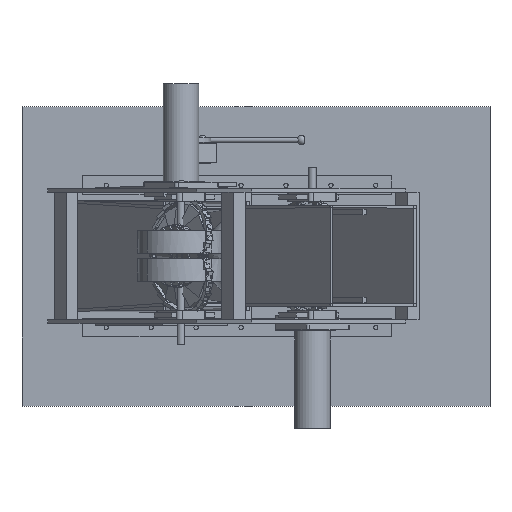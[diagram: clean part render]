
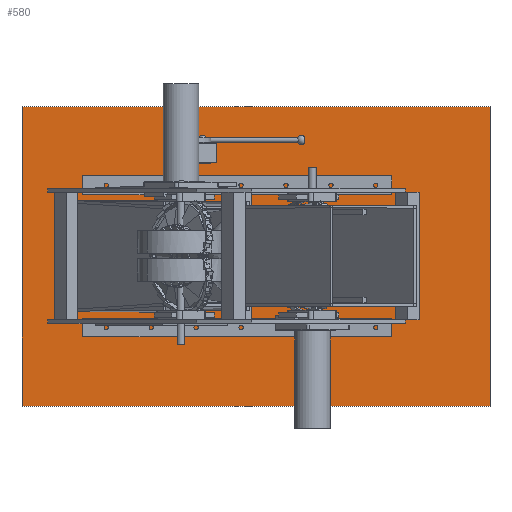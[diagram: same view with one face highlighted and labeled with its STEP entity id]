
A CAD part, top view. The second image highlights one B-rep face of the part: STEP entity #580.
In plain terms, the highlighted planar face has unit normal (0, 0, 1).
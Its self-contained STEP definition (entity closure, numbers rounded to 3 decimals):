
#266 = VERTEX_POINT('',#267);
#267 = CARTESIAN_POINT('',(-30.,-160.,0.));
#274 = PLANE('',#275);
#275 = AXIS2_PLACEMENT_3D('',#276,#277,#278);
#276 = CARTESIAN_POINT('',(-30.,-160.,-4.));
#277 = DIRECTION('',(1.,0.,0.));
#278 = DIRECTION('',(0.,0.,1.));
#286 = PLANE('',#287);
#287 = AXIS2_PLACEMENT_3D('',#288,#289,#290);
#288 = CARTESIAN_POINT('',(-30.,-160.,-4.));
#289 = DIRECTION('',(0.,1.,0.));
#290 = DIRECTION('',(0.,0.,1.));
#327 = VERTEX_POINT('',#328);
#328 = CARTESIAN_POINT('',(-30.,160.,0.));
#342 = PLANE('',#343);
#343 = AXIS2_PLACEMENT_3D('',#344,#345,#346);
#344 = CARTESIAN_POINT('',(-30.,160.,-4.));
#345 = DIRECTION('',(0.,1.,0.));
#346 = DIRECTION('',(0.,0.,1.));
#354 = EDGE_CURVE('',#266,#327,#355,.T.);
#355 = SURFACE_CURVE('',#356,(#360,#367),.PCURVE_S1.);
#356 = LINE('',#357,#358);
#357 = CARTESIAN_POINT('',(-30.,-160.,0.));
#358 = VECTOR('',#359,1.);
#359 = DIRECTION('',(0.,1.,0.));
#360 = PCURVE('',#274,#361);
#361 = DEFINITIONAL_REPRESENTATION('',(#362),#366);
#362 = LINE('',#363,#364);
#363 = CARTESIAN_POINT('',(4.,0.));
#364 = VECTOR('',#365,1.);
#365 = DIRECTION('',(0.,-1.));
#366 = ( GEOMETRIC_REPRESENTATION_CONTEXT(2) 
PARAMETRIC_REPRESENTATION_CONTEXT() REPRESENTATION_CONTEXT('2D SPACE',''
  ) );
#367 = PCURVE('',#368,#373);
#368 = PLANE('',#369);
#369 = AXIS2_PLACEMENT_3D('',#370,#371,#372);
#370 = CARTESIAN_POINT('',(-30.,-160.,0.));
#371 = DIRECTION('',(0.,0.,1.));
#372 = DIRECTION('',(1.,0.,0.));
#373 = DEFINITIONAL_REPRESENTATION('',(#374),#378);
#374 = LINE('',#375,#376);
#375 = CARTESIAN_POINT('',(0.,0.));
#376 = VECTOR('',#377,1.);
#377 = DIRECTION('',(0.,1.));
#378 = ( GEOMETRIC_REPRESENTATION_CONTEXT(2) 
PARAMETRIC_REPRESENTATION_CONTEXT() REPRESENTATION_CONTEXT('2D SPACE',''
  ) );
#386 = VERTEX_POINT('',#387);
#387 = CARTESIAN_POINT('',(470.,-160.,0.));
#394 = PLANE('',#395);
#395 = AXIS2_PLACEMENT_3D('',#396,#397,#398);
#396 = CARTESIAN_POINT('',(470.,-160.,-4.));
#397 = DIRECTION('',(1.,0.,0.));
#398 = DIRECTION('',(0.,0.,1.));
#437 = VERTEX_POINT('',#438);
#438 = CARTESIAN_POINT('',(470.,160.,0.));
#459 = EDGE_CURVE('',#386,#437,#460,.T.);
#460 = SURFACE_CURVE('',#461,(#465,#472),.PCURVE_S1.);
#461 = LINE('',#462,#463);
#462 = CARTESIAN_POINT('',(470.,-160.,0.));
#463 = VECTOR('',#464,1.);
#464 = DIRECTION('',(0.,1.,0.));
#465 = PCURVE('',#394,#466);
#466 = DEFINITIONAL_REPRESENTATION('',(#467),#471);
#467 = LINE('',#468,#469);
#468 = CARTESIAN_POINT('',(4.,0.));
#469 = VECTOR('',#470,1.);
#470 = DIRECTION('',(0.,-1.));
#471 = ( GEOMETRIC_REPRESENTATION_CONTEXT(2) 
PARAMETRIC_REPRESENTATION_CONTEXT() REPRESENTATION_CONTEXT('2D SPACE',''
  ) );
#472 = PCURVE('',#368,#473);
#473 = DEFINITIONAL_REPRESENTATION('',(#474),#478);
#474 = LINE('',#475,#476);
#475 = CARTESIAN_POINT('',(500.,0.));
#476 = VECTOR('',#477,1.);
#477 = DIRECTION('',(0.,1.));
#478 = ( GEOMETRIC_REPRESENTATION_CONTEXT(2) 
PARAMETRIC_REPRESENTATION_CONTEXT() REPRESENTATION_CONTEXT('2D SPACE',''
  ) );
#505 = EDGE_CURVE('',#266,#386,#506,.T.);
#506 = SURFACE_CURVE('',#507,(#511,#518),.PCURVE_S1.);
#507 = LINE('',#508,#509);
#508 = CARTESIAN_POINT('',(-30.,-160.,0.));
#509 = VECTOR('',#510,1.);
#510 = DIRECTION('',(1.,0.,0.));
#511 = PCURVE('',#286,#512);
#512 = DEFINITIONAL_REPRESENTATION('',(#513),#517);
#513 = LINE('',#514,#515);
#514 = CARTESIAN_POINT('',(4.,0.));
#515 = VECTOR('',#516,1.);
#516 = DIRECTION('',(0.,1.));
#517 = ( GEOMETRIC_REPRESENTATION_CONTEXT(2) 
PARAMETRIC_REPRESENTATION_CONTEXT() REPRESENTATION_CONTEXT('2D SPACE',''
  ) );
#518 = PCURVE('',#368,#519);
#519 = DEFINITIONAL_REPRESENTATION('',(#520),#524);
#520 = LINE('',#521,#522);
#521 = CARTESIAN_POINT('',(0.,0.));
#522 = VECTOR('',#523,1.);
#523 = DIRECTION('',(1.,0.));
#524 = ( GEOMETRIC_REPRESENTATION_CONTEXT(2) 
PARAMETRIC_REPRESENTATION_CONTEXT() REPRESENTATION_CONTEXT('2D SPACE',''
  ) );
#552 = EDGE_CURVE('',#327,#437,#553,.T.);
#553 = SURFACE_CURVE('',#554,(#558,#565),.PCURVE_S1.);
#554 = LINE('',#555,#556);
#555 = CARTESIAN_POINT('',(-30.,160.,0.));
#556 = VECTOR('',#557,1.);
#557 = DIRECTION('',(1.,0.,0.));
#558 = PCURVE('',#342,#559);
#559 = DEFINITIONAL_REPRESENTATION('',(#560),#564);
#560 = LINE('',#561,#562);
#561 = CARTESIAN_POINT('',(4.,0.));
#562 = VECTOR('',#563,1.);
#563 = DIRECTION('',(0.,1.));
#564 = ( GEOMETRIC_REPRESENTATION_CONTEXT(2) 
PARAMETRIC_REPRESENTATION_CONTEXT() REPRESENTATION_CONTEXT('2D SPACE',''
  ) );
#565 = PCURVE('',#368,#566);
#566 = DEFINITIONAL_REPRESENTATION('',(#567),#571);
#567 = LINE('',#568,#569);
#568 = CARTESIAN_POINT('',(0.,320.));
#569 = VECTOR('',#570,1.);
#570 = DIRECTION('',(1.,0.));
#571 = ( GEOMETRIC_REPRESENTATION_CONTEXT(2) 
PARAMETRIC_REPRESENTATION_CONTEXT() REPRESENTATION_CONTEXT('2D SPACE',''
  ) );
#580 = ADVANCED_FACE('',(#581),#368,.T.);
#581 = FACE_BOUND('',#582,.T.);
#582 = EDGE_LOOP('',(#583,#584,#585,#586));
#583 = ORIENTED_EDGE('',*,*,#354,.F.);
#584 = ORIENTED_EDGE('',*,*,#505,.T.);
#585 = ORIENTED_EDGE('',*,*,#459,.T.);
#586 = ORIENTED_EDGE('',*,*,#552,.F.);
